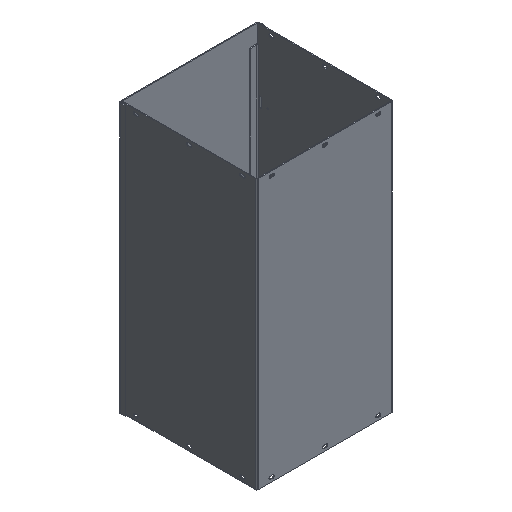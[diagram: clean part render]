
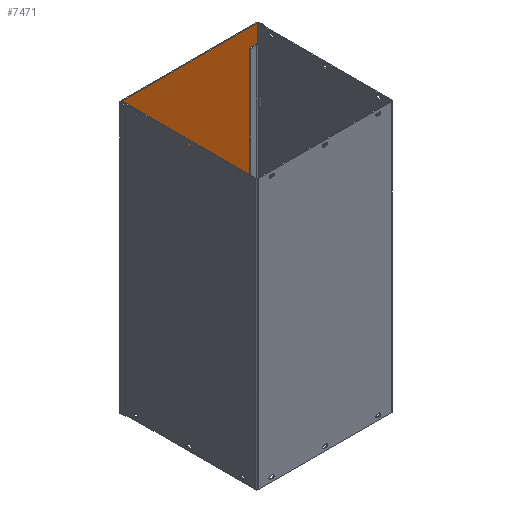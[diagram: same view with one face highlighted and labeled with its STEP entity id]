
A CAD part, isometric view. The second image highlights one B-rep face of the part: STEP entity #7471.
In plain terms, the highlighted free-form (B-spline) face has degree [1, 1] with [2, 2] control points.
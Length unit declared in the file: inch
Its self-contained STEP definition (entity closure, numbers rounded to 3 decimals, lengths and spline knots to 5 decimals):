
#6870=CARTESIAN_POINT('V65',(0.16617,0.498,
   5.97));
#6871=VERTEX_POINT('V65',#6870);
#6879=CARTESIAN_POINT('E99',(0.16617,0.498,
   5.97));
#6880=CARTESIAN_POINT('E99',(0.16617,0.498,
   5.36061));
#6881=CARTESIAN_POINT('E99',(0.69392,0.498,
   5.66531));
#6882=CARTESIAN_POINT('E99',(1.22166,0.498,
   5.97));
#6883=CARTESIAN_POINT('E99',(0.69392,0.498,
   6.27469));
#6884=CARTESIAN_POINT('E99',(0.16617,0.498,
   6.57939));
#6885=CARTESIAN_POINT('E99',(0.16617,0.498,
   5.97));
#6893=(BOUNDED_CURVE()B_SPLINE_CURVE(2,(#6879,#6880,#6881,#6882,
   #6883,#6884,#6885),.CIRCULAR_ARC.,.T.,.U.)
   B_SPLINE_CURVE_WITH_KNOTS((3,2,2,3),(0.0,0.33333,
   0.66667,1.0),.UNSPECIFIED.)CURVE()
   GEOMETRIC_REPRESENTATION_ITEM()RATIONAL_B_SPLINE_CURVE((1.0,
   0.5,1.0,0.5,1.0,0.5,1.0)
   )REPRESENTATION_ITEM('E99'));
#6894=EDGE_CURVE('E99',#6871,#6871,#6893,.T.);
#7348=CARTESIAN_POINT('V51',(0.16617,0.498,
   17.97));
#7349=VERTEX_POINT('V51',#7348);
#7357=CARTESIAN_POINT('E77',(0.16617,0.498,
   17.97));
#7358=CARTESIAN_POINT('E77',(0.16617,0.498,
   17.36061));
#7359=CARTESIAN_POINT('E77',(0.69392,0.498,
   17.66531));
#7360=CARTESIAN_POINT('E77',(1.22166,0.498,
   17.97));
#7361=CARTESIAN_POINT('E77',(0.69392,0.498,
   18.27469));
#7362=CARTESIAN_POINT('E77',(0.16617,0.498,
   18.57939));
#7363=CARTESIAN_POINT('E77',(0.16617,0.498,
   17.97));
#7371=(BOUNDED_CURVE()B_SPLINE_CURVE(2,(#7357,#7358,#7359,#7360,
   #7361,#7362,#7363),.CIRCULAR_ARC.,.T.,.U.)
   B_SPLINE_CURVE_WITH_KNOTS((3,2,2,3),(0.0,0.33333,
   0.66667,1.0),.UNSPECIFIED.)CURVE()
   GEOMETRIC_REPRESENTATION_ITEM()RATIONAL_B_SPLINE_CURVE((1.0,
   0.5,1.0,0.5,1.0,0.5,1.0)
   )REPRESENTATION_ITEM('E77'));
#7372=EDGE_CURVE('E77',#7349,#7349,#7371,.T.);
#7391=CARTESIAN_POINT('V7',(0.08,0.498,0.0)
   );
#7392=VERTEX_POINT('V7',#7391);
#7393=CARTESIAN_POINT('V19',(0.08,0.498,
   23.94));
#7394=VERTEX_POINT('V19',#7393);
#7395=CARTESIAN_POINT('E59',(0.08,0.498,0.0)
   );
#7396=CARTESIAN_POINT('E59',(0.08,0.498,
   23.94));
#7397=QUASI_UNIFORM_CURVE('E59',1,(#7395,#7396),.POLYLINE_FORM.,.F.,
   .U.);
#7398=EDGE_CURVE('E59',#7392,#7394,#7397,.T.);
#7438=CARTESIAN_POINT('F41',(0.07406,0.498,
   -0.00512));
#7439=CARTESIAN_POINT('F41',(0.07406,0.498,
   23.94512));
#7440=CARTESIAN_POINT('F41',(12.21512,0.498,
   -0.00512));
#7441=CARTESIAN_POINT('F41',(12.21512,0.498,
   23.94512));
#7442=B_SPLINE_SURFACE_WITH_KNOTS('F41',1,1,((#7438,#7440),(#7439,
   #7441)),.PLANE_SURF.,.F.,.F.,.U.,(2,2),(2,2),(0.0,
   1.97267),(0.0,1.0),.UNSPECIFIED.);
#7443=CARTESIAN_POINT('V18',(12.21,0.498,
   23.94));
#7444=VERTEX_POINT('V18',#7443);
#7445=CARTESIAN_POINT('V8',(12.21,0.498,0.0)
   );
#7446=VERTEX_POINT('V8',#7445);
#7447=CARTESIAN_POINT('E57',(12.21,0.498,
   23.94));
#7448=CARTESIAN_POINT('E57',(12.21,0.498,
   0.0));
#7449=QUASI_UNIFORM_CURVE('E57',1,(#7447,#7448),.POLYLINE_FORM.,.F.,
   .U.);
#7450=EDGE_CURVE('E57',#7444,#7446,#7449,.T.);
#7451=ORIENTED_EDGE('E57',*,*,#7450,.F.);
#7452=CARTESIAN_POINT('E21',(0.08,0.498,
   23.94));
#7453=CARTESIAN_POINT('E21',(12.21,0.498,
   23.94));
#7454=QUASI_UNIFORM_CURVE('E21',1,(#7452,#7453),.POLYLINE_FORM.,.F.,
   .U.);
#7455=EDGE_CURVE('E21',#7394,#7444,#7454,.T.);
#7456=ORIENTED_EDGE('E21',*,*,#7455,.F.);
#7457=ORIENTED_EDGE('E59',*,*,#7398,.F.);
#7458=CARTESIAN_POINT('E7',(12.21,0.498,0.0)
   );
#7459=CARTESIAN_POINT('E7',(0.08,0.498,0.0)
   );
#7460=QUASI_UNIFORM_CURVE('E7',1,(#7458,#7459),.POLYLINE_FORM.,.F.,
   .U.);
#7461=EDGE_CURVE('E7',#7446,#7392,#7460,.T.);
#7462=ORIENTED_EDGE('E7',*,*,#7461,.F.);
#7463=EDGE_LOOP('F41',(#7451,#7456,#7457,#7462));
#7464=FACE_OUTER_BOUND('F41',#7463,.T.);
#7465=ORIENTED_EDGE('F27',*,*,#7372,.F.);
#7466=EDGE_LOOP('F41',(#7465));
#7467=FACE_BOUND('F41',#7466,.T.);
#7468=ORIENTED_EDGE('F37',*,*,#6894,.F.);
#7469=EDGE_LOOP('F41',(#7468));
#7470=FACE_BOUND('F41',#7469,.T.);
#7471=ADVANCED_FACE('F41',(#7464,#7467,#7470),#7442,.F.);
